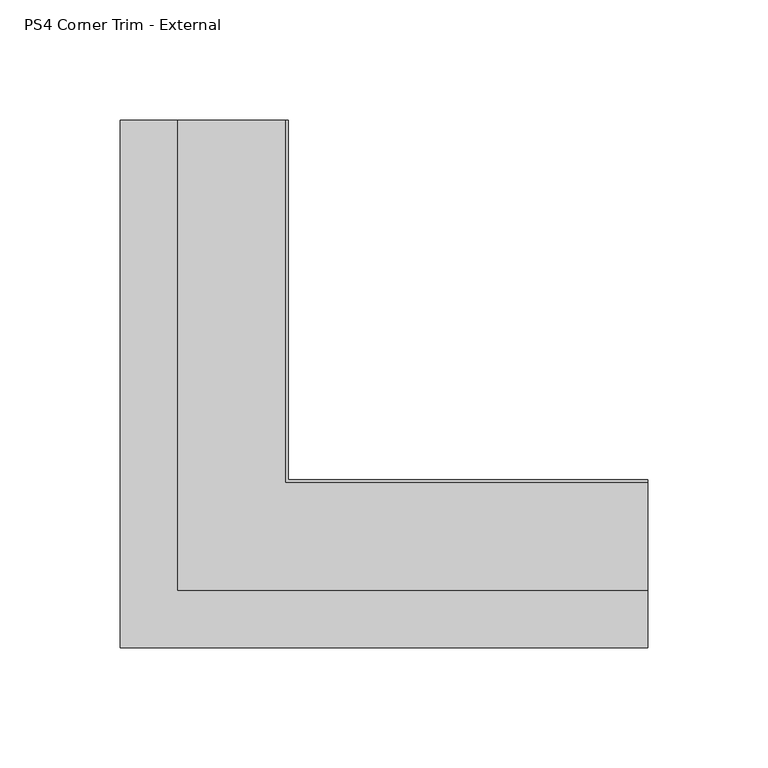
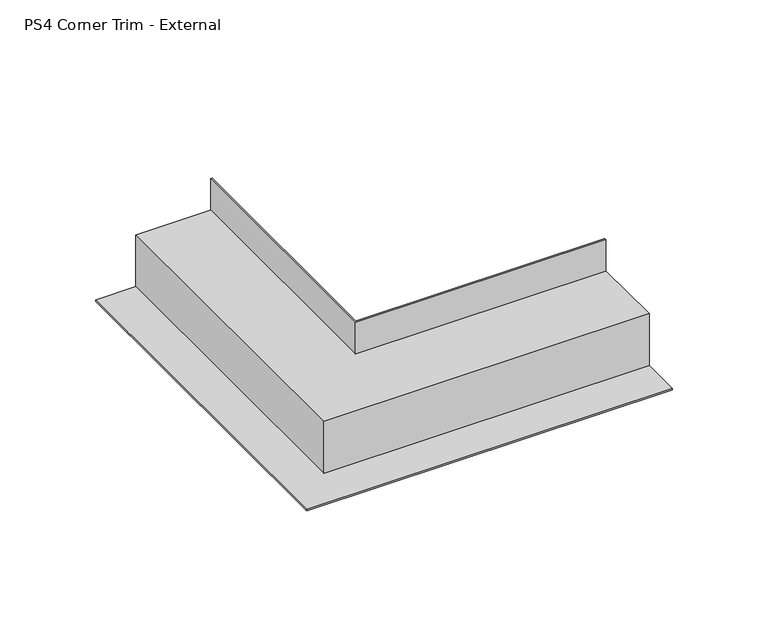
"""IFC4 building model written with IfcOpenShell, lengths in millimetres: proxy geometry, PS4 Corner Trim - External : Trims Pelican Systems Plaster Trim 45 x 20."""

from ifc_helpers import new_model, si_unit, origin, place, context, project, spatial, faceted_brep, source, transform, mapped, element, save


def ps4_corner_trim_external_485f981e(model_context):
    return source(origin(), model_context, "Body", "Brep", [
        faceted_brep([(30.0, 179.8051189, 45.0), (30.0, 179.8051189, 24.0), (-15.0, 179.8051189, 24.0), (-15.0, 179.8051189, -20.0), (-16.0, 179.8051189, -20.0), (-16.0, 179.8051189, -9.0), (-40.0, 179.8051189, -9.0), (-40.0, 179.8051189, -8.0), (-16.0, 179.8051189, -8.0), (-16.0, 179.8051189, 25.0), (29.0, 179.8051189, 25.0), (29.0, 179.8051189, 45.0), (179.8051189, 30.0, 45.0), (179.8051189, 29.0, 45.0), (179.8051189, 29.0, 25.0), (179.8051189, -16.0, 25.0), (179.8051189, -16.0, -8.0), (179.8051189, -40.0, -8.0), (179.8051189, -40.0, -9.0), (179.8051189, -16.0, -9.0), (179.8051189, -16.0, -20.0), (179.8051189, -15.0, -20.0), (179.8051189, -15.0, 24.0), (179.8051189, 30.0, 24.0), (30.0, 30.0, 24.0), (30.0, 30.0, 45.0), (-15.0, -15.0, -20.0), (-15.0, -15.0, 24.0), (-16.0, -16.0, 25.0), (-16.0, -16.0, -8.0), (29.0, 29.0, 45.0), (29.0, 29.0, 25.0), (-16.0, -16.0, -9.0), (-16.0, -16.0, -20.0), (-40.0, -40.0, -8.0), (-40.0, -40.0, -9.0)], [[[0, 1, 2, 3, 4, 5, 6, 7, 8, 9, 10, 11]], [[12, 13, 14, 15, 16, 17, 18, 19, 20, 21, 22, 23]], [[24, 25, 12, 23]], [[26, 27, 22, 21]], [[28, 29, 16, 15]], [[30, 31, 14, 13]], [[32, 33, 20, 19]], [[34, 35, 18, 17]], [[1, 0, 25, 24]], [[2, 1, 24, 23, 22, 27]], [[3, 2, 27, 26]], [[4, 3, 26, 21, 20, 33]], [[5, 4, 33, 32]], [[6, 5, 32, 19, 18, 35]], [[7, 6, 35, 34]], [[8, 7, 34, 17, 16, 29]], [[9, 8, 29, 28]], [[10, 9, 28, 15, 14, 31]], [[11, 10, 31, 30]], [[0, 11, 30, 13, 12, 25]]]),
    ])


if __name__ == "__main__":
    model = new_model("IFC4")
    model_context = context("Model", 3, world=origin())
    ifc_project = project(units=[si_unit("LENGTHUNIT", "METRE", prefix="MILLI")], contexts=[model_context])
    site = spatial("IfcSite", under=ifc_project)
    building = spatial("IfcBuilding", under=site)
    placement = place(None, origin())
    ps4_corner_trim_external_shape = ps4_corner_trim_external_485f981e(model_context)
    element("IfcBuildingElementProxy", 1, Name="PS4 Corner Trim - External : Trims Pelican Systems Plaster Trim 45 x 20", ObjectType="PS4 Corner Trim - External : Trims Pelican Systems Plaster Trim 45 x 20", at=placement, inside=building, context=model_context, shape_type="MappedRepresentation", body=[
        mapped(ps4_corner_trim_external_shape, transform((0.0, 0.0, 0.0), x_axis=(1.0, 0.0, 0.0), y_axis=(0.0, 1.0, 0.0), z_axis=(0.0, 0.0, 1.0))),
    ])
    save(model, "model.ifc")
